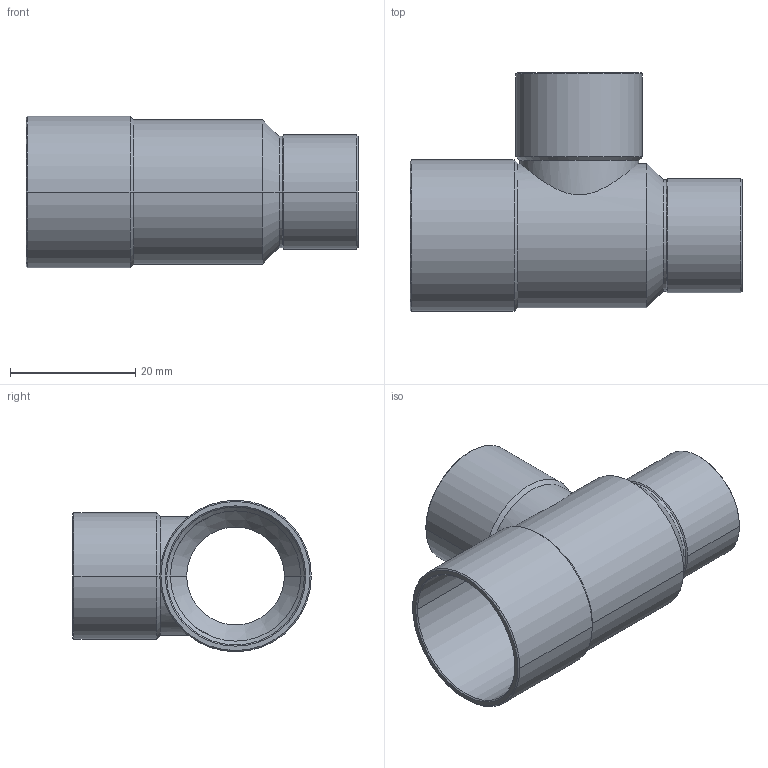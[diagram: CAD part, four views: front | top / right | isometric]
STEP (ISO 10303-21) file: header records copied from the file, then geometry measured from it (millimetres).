
FILE_DESCRIPTION((''),'2;1');
FILE_NAME('P:\Bouwmaten\z-maattekeningen 3D\5000\5130\5130221816.stp','2005-10-26T11:53:47',('Kris'),(''),'Autodesk Inventor 8','Autodesk Inventor 8','');
FILE_SCHEMA(('AUTOMOTIVE_DESIGN { 1 0 10303 214 1 1 1 1 }'));
Length unit declared in the file: millimetre
Products named in the file (1): 5130221816
Bounding box: 53 x 38.1 x 24.2 mm (x, y, z)
Volume: 4680.9 mm3; surface area: 8830.2 mm2
Topology: 1 solids, 1 shells, 55 faces, 116 edges, 62 vertices
Faces by surface type: cone 28, cylinder 24, plane 3
Entity records: 1543 total; most frequent: CARTESIAN_POINT 320, DIRECTION 278, ORIENTED_EDGE 232, EDGE_CURVE 116, AXIS2_PLACEMENT_3D 112, VERTEX_POINT 62, EDGE_LOOP 58, CIRCLE 56
